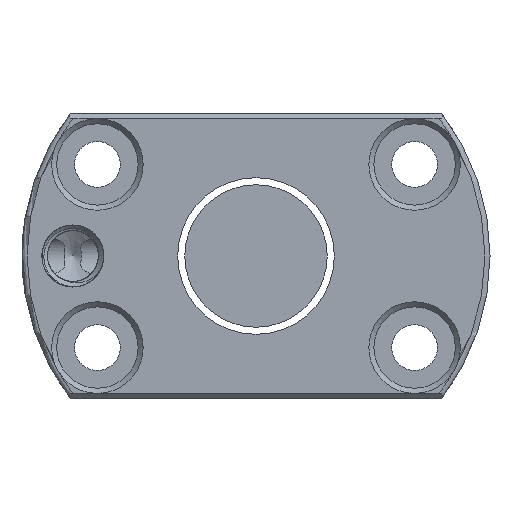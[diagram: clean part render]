
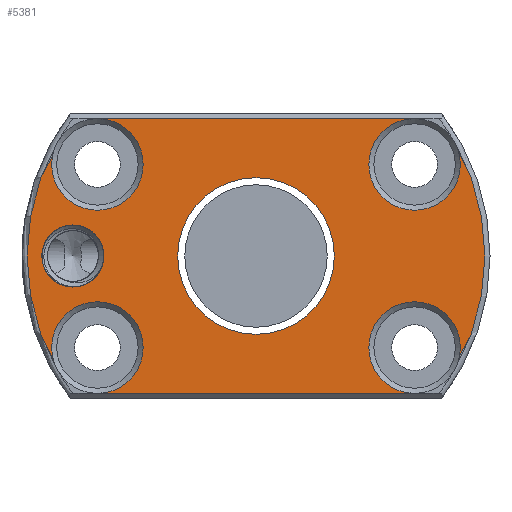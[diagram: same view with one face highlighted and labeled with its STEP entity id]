
A CAD part, left-side view. The second image highlights one B-rep face of the part: STEP entity #5381.
In plain terms, the highlighted planar face has unit normal (-1, 0, 0).
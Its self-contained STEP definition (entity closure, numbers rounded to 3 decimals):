
#20 = AXIS2_PLACEMENT_3D ( 'NONE', #4182, #5539, #4757 ) ;
#67 = CARTESIAN_POINT ( 'NONE',  ( -45., 15.588, 13.5 ) ) ;
#142 = EDGE_CURVE ( 'NONE', #2968, #4827, #4327, .T. ) ;
#182 = FACE_BOUND ( 'NONE', #3002, .T. ) ;
#225 = DIRECTION ( 'NONE',  ( 0., 1., 0. ) ) ;
#242 = CARTESIAN_POINT ( 'NONE',  ( -45., 15.588, 9. ) ) ;
#454 = VERTEX_POINT ( 'NONE', #5357 ) ;
#591 = EDGE_LOOP ( 'NONE', ( #4753 ) ) ;
#706 = DIRECTION ( 'NONE',  ( 1., 0., 0. ) ) ;
#737 = AXIS2_PLACEMENT_3D ( 'NONE', #242, #2199, #6106 ) ;
#845 = CIRCLE ( 'NONE', #5756, 4.5 ) ;
#934 = CARTESIAN_POINT ( 'NONE',  ( -45., -15.588, 13.5 ) ) ;
#1077 = EDGE_CURVE ( 'NONE', #2347, #4614, #2616, .T. ) ;
#1078 = CIRCLE ( 'NONE', #2722, 4.5 ) ;
#1107 = FACE_OUTER_BOUND ( 'NONE', #5252, .T. ) ;
#1198 = DIRECTION ( 'NONE',  ( 1., 0., 0. ) ) ;
#1229 = DIRECTION ( 'NONE',  ( -1., 0., 0. ) ) ;
#1262 = CARTESIAN_POINT ( 'NONE',  ( -45., -15.588, -9. ) ) ;
#1314 = ORIENTED_EDGE ( 'NONE', *, *, #3720, .T. ) ;
#1401 = ORIENTED_EDGE ( 'NONE', *, *, #6057, .T. ) ;
#1559 = CIRCLE ( 'NONE', #20, 22.5 ) ;
#1760 = CARTESIAN_POINT ( 'NONE',  ( -45., -19.486, 11.25 ) ) ;
#1845 = EDGE_CURVE ( 'NONE', #4279, #2968, #1078, .T. ) ;
#1954 = CARTESIAN_POINT ( 'NONE',  ( -45., 0., 0. ) ) ;
#2006 = ORIENTED_EDGE ( 'NONE', *, *, #142, .T. ) ;
#2038 = VERTEX_POINT ( 'NONE', #67 ) ;
#2069 = ORIENTED_EDGE ( 'NONE', *, *, #4394, .T. ) ;
#2075 = CIRCLE ( 'NONE', #737, 4.5 ) ;
#2124 = DIRECTION ( 'NONE',  ( 0., 0., 1. ) ) ;
#2155 = CARTESIAN_POINT ( 'NONE',  ( -45., 15.588, -9. ) ) ;
#2199 = DIRECTION ( 'NONE',  ( 1., 0., 0. ) ) ;
#2347 = VERTEX_POINT ( 'NONE', #1760 ) ;
#2616 = CIRCLE ( 'NONE', #4966, 4.5 ) ;
#2618 = PLANE ( 'NONE',  #6167 ) ;
#2630 = DIRECTION ( 'NONE',  ( 0., 0., 1. ) ) ;
#2661 = CARTESIAN_POINT ( 'NONE',  ( -45., 17.614, 13.5 ) ) ;
#2722 = AXIS2_PLACEMENT_3D ( 'NONE', #2155, #706, #2124 ) ;
#2735 = DIRECTION ( 'NONE',  ( 0., 0., -1. ) ) ;
#2744 = DIRECTION ( 'NONE',  ( 0., 0., 1. ) ) ;
#2786 = VECTOR ( 'NONE', #225, 1000. ) ;
#2793 = AXIS2_PLACEMENT_3D ( 'NONE', #1954, #3898, #2735 ) ;
#2968 = VERTEX_POINT ( 'NONE', #3961 ) ;
#3002 = EDGE_LOOP ( 'NONE', ( #5118 ) ) ;
#3006 = VERTEX_POINT ( 'NONE', #4948 ) ;
#3064 = VERTEX_POINT ( 'NONE', #4870 ) ;
#3113 = LINE ( 'NONE', #2661, #2786 ) ;
#3132 = DIRECTION ( 'NONE',  ( 0., 0., 1. ) ) ;
#3133 = DIRECTION ( 'NONE',  ( -1., 0., 0. ) ) ;
#3475 = CARTESIAN_POINT ( 'NONE',  ( -45., 18., 3.05 ) ) ;
#3520 = CARTESIAN_POINT ( 'NONE',  ( -45., -15.588, -13.5 ) ) ;
#3572 = CARTESIAN_POINT ( 'NONE',  ( -45., 23., 0. ) ) ;
#3577 = EDGE_CURVE ( 'NONE', #5982, #5982, #6063, .T. ) ;
#3632 = CARTESIAN_POINT ( 'NONE',  ( -45., -15.588, 9. ) ) ;
#3649 = EDGE_CURVE ( 'NONE', #4614, #2038, #3113, .T. ) ;
#3695 = FACE_BOUND ( 'NONE', #591, .T. ) ;
#3720 = EDGE_CURVE ( 'NONE', #454, #4279, #1559, .T. ) ;
#3812 = ORIENTED_EDGE ( 'NONE', *, *, #3649, .T. ) ;
#3898 = DIRECTION ( 'NONE',  ( 1., 0., 0. ) ) ;
#3961 = CARTESIAN_POINT ( 'NONE',  ( -45., 15.588, -13.5 ) ) ;
#4115 = DIRECTION ( 'NONE',  ( 0., 0., 1. ) ) ;
#4182 = CARTESIAN_POINT ( 'NONE',  ( -45., 0., 0. ) ) ;
#4255 = ORIENTED_EDGE ( 'NONE', *, *, #1845, .T. ) ;
#4279 = VERTEX_POINT ( 'NONE', #4880 ) ;
#4316 = AXIS2_PLACEMENT_3D ( 'NONE', #5560, #3133, #4115 ) ;
#4327 = LINE ( 'NONE', #5871, #5776 ) ;
#4394 = EDGE_CURVE ( 'NONE', #2038, #454, #2075, .T. ) ;
#4614 = VERTEX_POINT ( 'NONE', #934 ) ;
#4753 = ORIENTED_EDGE ( 'NONE', *, *, #3577, .F. ) ;
#4757 = DIRECTION ( 'NONE',  ( 0., 0., 1. ) ) ;
#4827 = VERTEX_POINT ( 'NONE', #3520 ) ;
#4870 = CARTESIAN_POINT ( 'NONE',  ( -45., -19.486, -11.25 ) ) ;
#4880 = CARTESIAN_POINT ( 'NONE',  ( -45., 19.486, -11.25 ) ) ;
#4938 = CIRCLE ( 'NONE', #4316, 22.5 ) ;
#4948 = CARTESIAN_POINT ( 'NONE',  ( -45., 0., -7.7 ) ) ;
#4966 = AXIS2_PLACEMENT_3D ( 'NONE', #3632, #1198, #6169 ) ;
#5094 = CARTESIAN_POINT ( 'NONE',  ( -45., 18., 0. ) ) ;
#5118 = ORIENTED_EDGE ( 'NONE', *, *, #5809, .T. ) ;
#5122 = DIRECTION ( 'NONE',  ( -1., 0., 0. ) ) ;
#5174 = DIRECTION ( 'NONE',  ( 1., 0., 0. ) ) ;
#5252 = EDGE_LOOP ( 'NONE', ( #2006, #5286, #1401, #5490, #3812, #2069, #1314, #4255 ) ) ;
#5286 = ORIENTED_EDGE ( 'NONE', *, *, #6009, .T. ) ;
#5357 = CARTESIAN_POINT ( 'NONE',  ( -45., 19.486, 11.25 ) ) ;
#5381 = ADVANCED_FACE ( 'NONE', ( #3695, #182, #1107 ), #2618, .T. ) ;
#5393 = DIRECTION ( 'NONE',  ( 0., -1., 0. ) ) ;
#5490 = ORIENTED_EDGE ( 'NONE', *, *, #1077, .T. ) ;
#5539 = DIRECTION ( 'NONE',  ( -1., 0., 0. ) ) ;
#5544 = AXIS2_PLACEMENT_3D ( 'NONE', #5094, #5122, #2630 ) ;
#5550 = CIRCLE ( 'NONE', #2793, 7.7 ) ;
#5560 = CARTESIAN_POINT ( 'NONE',  ( -45., 0., 0. ) ) ;
#5756 = AXIS2_PLACEMENT_3D ( 'NONE', #1262, #5174, #2744 ) ;
#5776 = VECTOR ( 'NONE', #5393, 1000. ) ;
#5809 = EDGE_CURVE ( 'NONE', #3006, #3006, #5550, .T. ) ;
#5871 = CARTESIAN_POINT ( 'NONE',  ( -45., -17.614, -13.5 ) ) ;
#5982 = VERTEX_POINT ( 'NONE', #3475 ) ;
#6009 = EDGE_CURVE ( 'NONE', #4827, #3064, #845, .T. ) ;
#6057 = EDGE_CURVE ( 'NONE', #3064, #2347, #4938, .T. ) ;
#6063 = CIRCLE ( 'NONE', #5544, 3.05 ) ;
#6106 = DIRECTION ( 'NONE',  ( 0., 0., 1. ) ) ;
#6167 = AXIS2_PLACEMENT_3D ( 'NONE', #3572, #1229, #3132 ) ;
#6169 = DIRECTION ( 'NONE',  ( 0., 0., 1. ) ) ;
